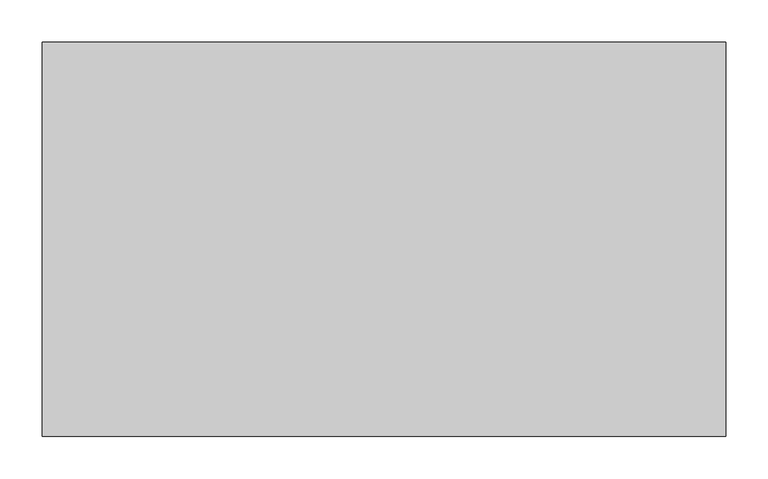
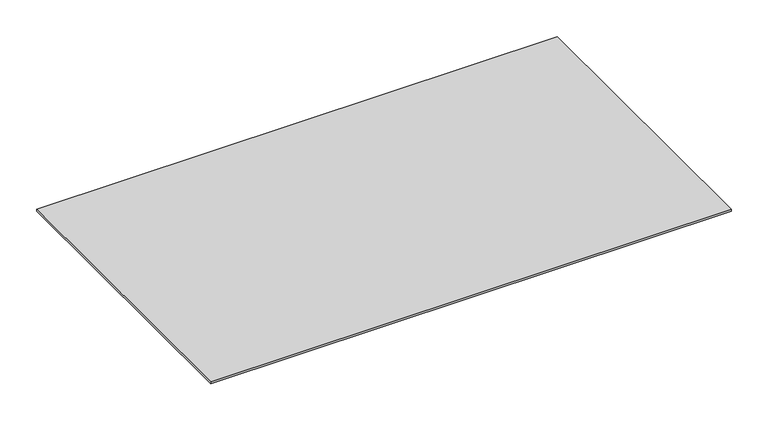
"""IFC4 building model written with IfcOpenShell, lengths in millimetres: proxy geometry, Electrical_Installation_Hager_Blank-Cover-BKA : Electrical_Installation_Hager_Blank-Cover-BKA."""

from ifc_helpers import new_model, si_unit, frame, origin, place, context, project, spatial, polyline, outline, extrude, source, transform, mapped, element, save


def electrical_fixtures_000b1942(model_context):
    return source(origin(), model_context, "Body", "SweptSolid", [
        extrude(outline(polyline([(813.0, 234.75), (813.0, -234.75), (0.0, -234.75), (0.0, 234.75), (813.0, 234.75)])), frame((0.0, 0.0, 10.0), z_axis=(0.0, 0.0, 1.0), x_axis=(1.0, 0.0, 0.0)), (0.0, 0.0, 1.0), 3.0),
    ])


if __name__ == "__main__":
    model = new_model("IFC4")
    model_context = context("Model", 3, world=origin())
    ifc_project = project(units=[si_unit("LENGTHUNIT", "METRE", prefix="MILLI")], contexts=[model_context])
    site = spatial("IfcSite", under=ifc_project)
    building = spatial("IfcBuilding", under=site)
    placement = place(None, origin())
    electrical_fixtures_shape = electrical_fixtures_000b1942(model_context)
    element("IfcBuildingElementProxy", 1, Name="Electrical_Installation_Hager_Blank-Cover-BKA : Electrical_Installation_Hager_Blank-Cover-BKA", ObjectType="Electrical_Installation_Hager_Blank-Cover-BKA : Electrical_Installation_Hager_Blank-Cover-BKA", at=placement, inside=building, context=model_context, shape_type="MappedRepresentation", body=[
        mapped(electrical_fixtures_shape, transform((0.0, 0.0, 0.0), x_axis=(1.0, 0.0, 0.0), y_axis=(0.0, 1.0, 0.0), z_axis=(0.0, 0.0, 1.0))),
    ])
    save(model, "model.ifc")
